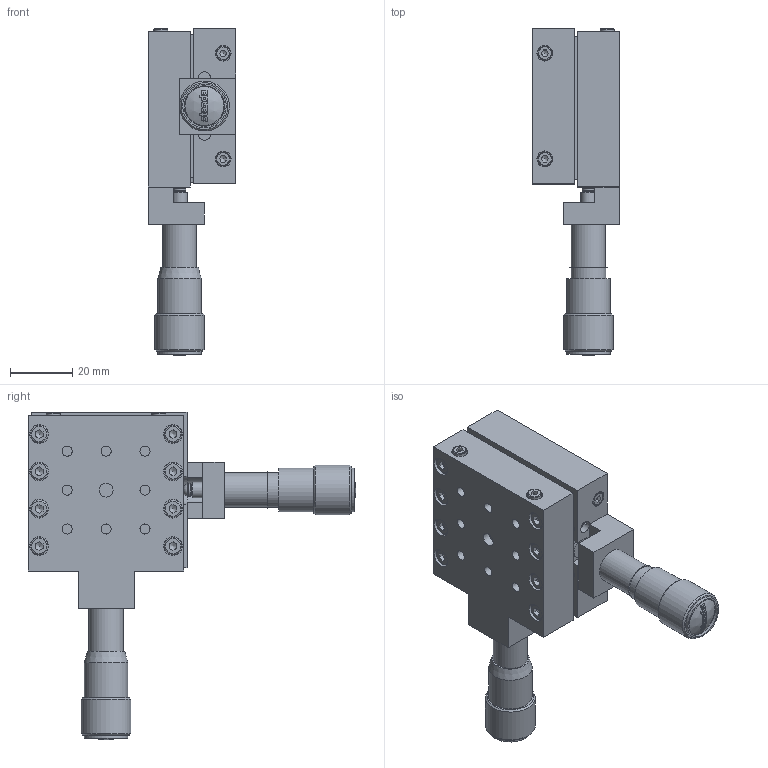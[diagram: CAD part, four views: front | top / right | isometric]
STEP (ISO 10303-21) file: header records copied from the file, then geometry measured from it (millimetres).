
FILE_DESCRIPTION(/* description */ (''),/* implementation_level */ '2;1');
FILE_NAME(/* name */ '7T273-10.stp',/* time_stamp */ '2025-06-12T14:14:02+03:00',/* author */ ('dsgn36'),/* organization */ (''),/* preprocessor_version */ 'ST-DEVELOPER v20',/* originating_system */ 'Autodesk Inventor 2025',/* authorisation */ '');
FILE_SCHEMA (('CONFIG_CONTROL_DESIGN'));
Length unit declared in the file: millimetre
Products named in the file (1): 7T273-10
Bounding box: 28 x 105.21 x 105.21 mm (x, y, z)
Volume: 83638.5 mm3; surface area: 26258.2 mm2
Topology: 3 solids, 39 shells, 863 faces, 2053 edges, 1360 vertices
Faces by surface type: plane 521, cylinder 220, cone 72, sphere 26, torus 24
Full cylindrical faces by diameter (mm): 1.25 x2, 1.567 x4, 2 x4, 2.5 x2, 3 x6, 3.242 x16, 4 x8, 4.5 x9, 5 x4, 5.1 x12, 5.5 x16, 6 x22, 6.5 x2, 7 x2, 8.788 x2, 10 x2, 11 x2, 11.2 x2, 13 x2, 14 x4, 16 x2
Entity records: 25809 total; most frequent: CARTESIAN_POINT 5925, DIRECTION 4202, ORIENTED_EDGE 4034, EDGE_CURVE 2017, AXIS2_PLACEMENT_3D 1615, VERTEX_POINT 1360, EDGE_LOOP 1009, LINE 972
